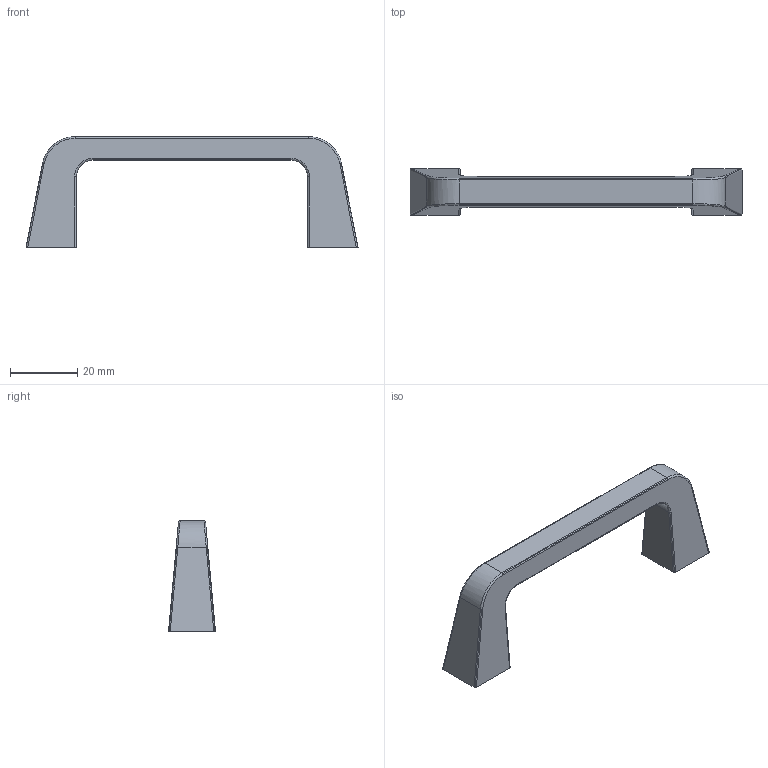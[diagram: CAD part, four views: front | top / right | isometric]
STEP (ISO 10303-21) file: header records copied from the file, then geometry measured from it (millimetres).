
FILE_DESCRIPTION((''),'2;1');
FILE_NAME('6417.01.53.stp','2023-10-09T16:45:32',(''),(''),'Mechanical Desktop 2006','Mechanical Desktop 2006',', , ');
FILE_SCHEMA(('CONFIG_CONTROL_DESIGN'));
Length unit declared in the file: millimetre
Products named in the file (2): Product; *U23
Assembly tree (1 placements, depth 2):
  Product
    *U23
Bounding box: 99 x 14 x 33 mm (x, y, z)
Volume: 12608.2 mm3; surface area: 5570.7 mm2
Topology: 1 solids, 1 shells, 56 faces, 136 edges, 84 vertices
Faces by surface type: cylinder 32, plane 12, bspline 8, cone 4
Entity records: 2133 total; most frequent: CARTESIAN_POINT 670, DIRECTION 312, ORIENTED_EDGE 272, EDGE_CURVE 136, AXIS2_PLACEMENT_3D 126, VERTEX_POINT 84, VECTOR 60, LINE 60
